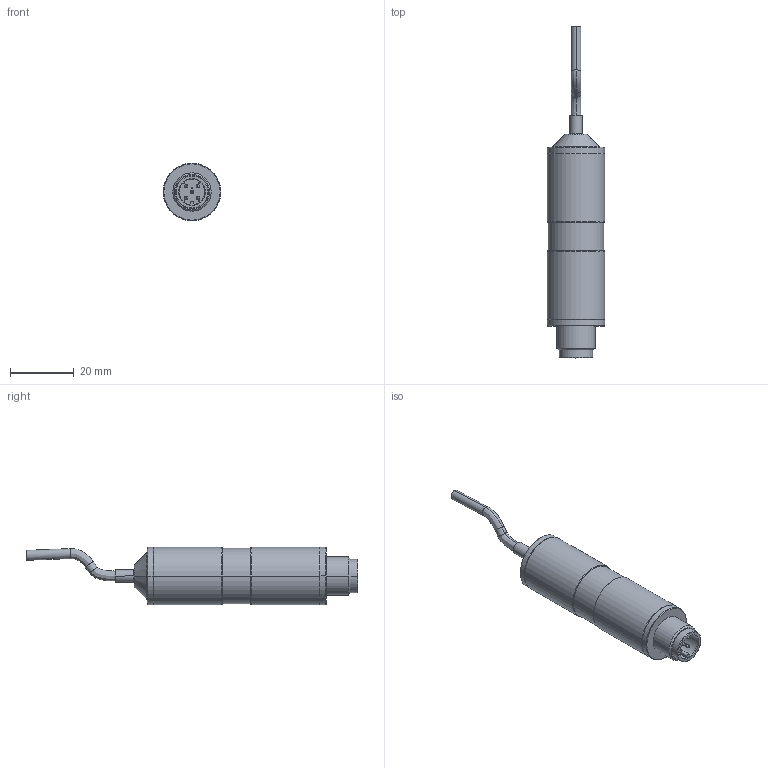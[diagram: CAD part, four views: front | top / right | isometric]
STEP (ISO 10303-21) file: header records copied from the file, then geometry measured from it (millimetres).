
FILE_DESCRIPTION((''),'2;1');
FILE_NAME('0000365462_PRT','2021-03-01T14:39:57',('pdmservice'),(''),'CREO PARAMETRIC BY PTC INC, 2018420','CREO PARAMETRIC BY PTC INC, 2018420','');
FILE_SCHEMA(('AUTOMOTIVE_DESIGN { 1 0 10303 214 1 1 1 1 }'));
Length unit declared in the file: millimetre
Products named in the file (1): 0000365462_PRT
Bounding box: 18 x 103.86 x 18 mm (x, y, z)
Volume: 15409.3 mm3; surface area: 5058.8 mm2
Topology: 1 solids, 3 shells, 249 faces, 704 edges, 477 vertices
Faces by surface type: plane 171, cylinder 35, cone 20, revolution 10, torus 9, bspline 4
Entity records: 13612 total; most frequent: CARTESIAN_POINT 2298, ORIENTED_EDGE 1402, DIRECTION 1350, PRESENTATION_STYLE_ASSIGNMENT 964, STYLED_ITEM 717, CURVE_STYLE 714, EDGE_CURVE 704, VECTOR 500
